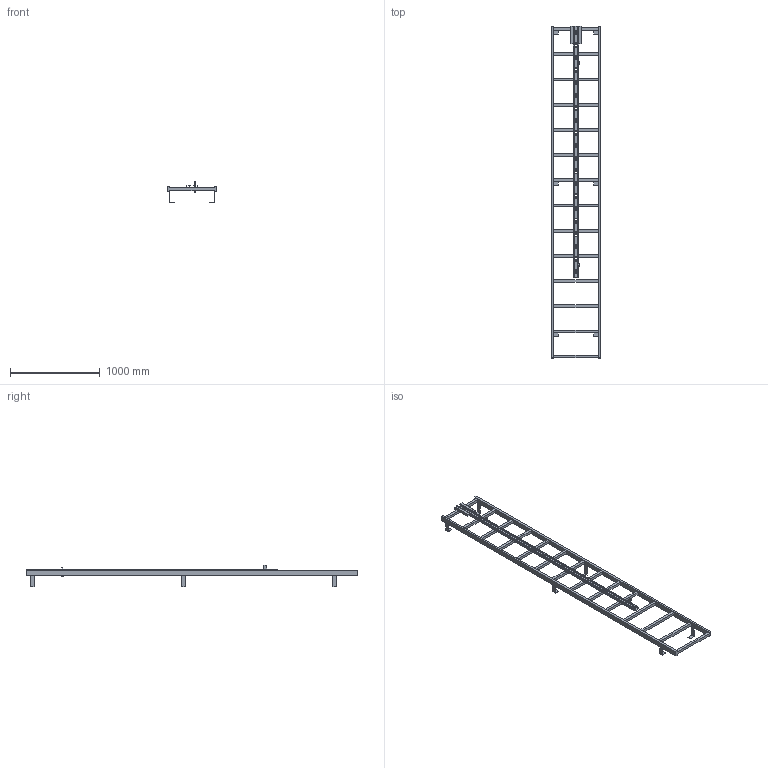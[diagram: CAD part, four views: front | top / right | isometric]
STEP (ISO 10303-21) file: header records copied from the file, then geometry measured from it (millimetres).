
FILE_DESCRIPTION((''),'2;1');
FILE_NAME('52330193','2024-12-05T09:02:00',('wep'),('HUBER SE'),'CREO PARAMETRIC BY PTC INC, 2022162','CREO PARAMETRIC BY PTC INC, 2022162','');
FILE_SCHEMA(('AUTOMOTIVE_DESIGN { 1 0 10303 214 1 1 1 1 }'));
Length unit declared in the file: millimetre
Products named in the file (1): 52330193
Bounding box: 550 x 3690 x 239 mm (x, y, z)
Volume: 17348560 mm3; surface area: 2914325.7 mm2
Topology: 2 solids, 2 shells, 244 faces, 710 edges, 464 vertices
Faces by surface type: plane 244
Entity records: 8557 total; most frequent: CARTESIAN_POINT 1420, ORIENTED_EDGE 1420, DIRECTION 1198, VECTOR 710, LINE 710, EDGE_CURVE 710, VERTEX_POINT 464, EDGE_LOOP 308
